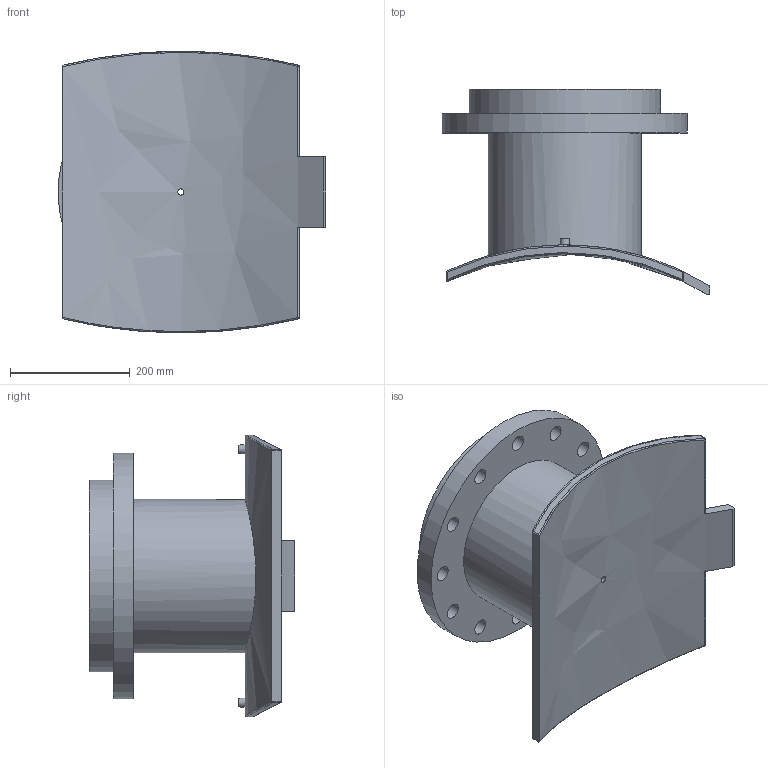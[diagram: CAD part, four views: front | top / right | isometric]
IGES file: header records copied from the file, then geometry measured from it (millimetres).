
Global section: file name: 495903900250T; native system: Autodesk Inventor 2019; preprocessor: unknown; author: KIM; date: 20240403.210407; units: millimetre
Bounding box: 446.71 x 342.93 x 469.97 mm (x, y, z)
Volume: 11526141.8 mm3; surface area: 1018579.9 mm2
Topology: 1 solids, 1 shells, 62 faces, 163 edges, 126 vertices
Faces by surface type: bspline 62
